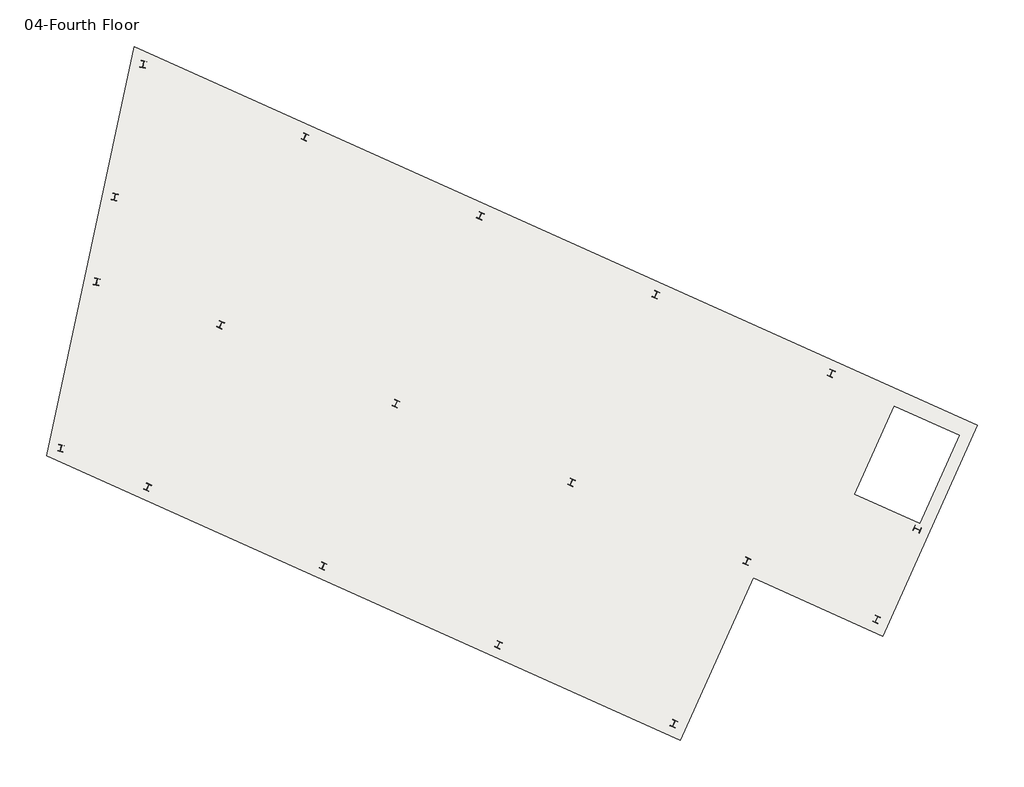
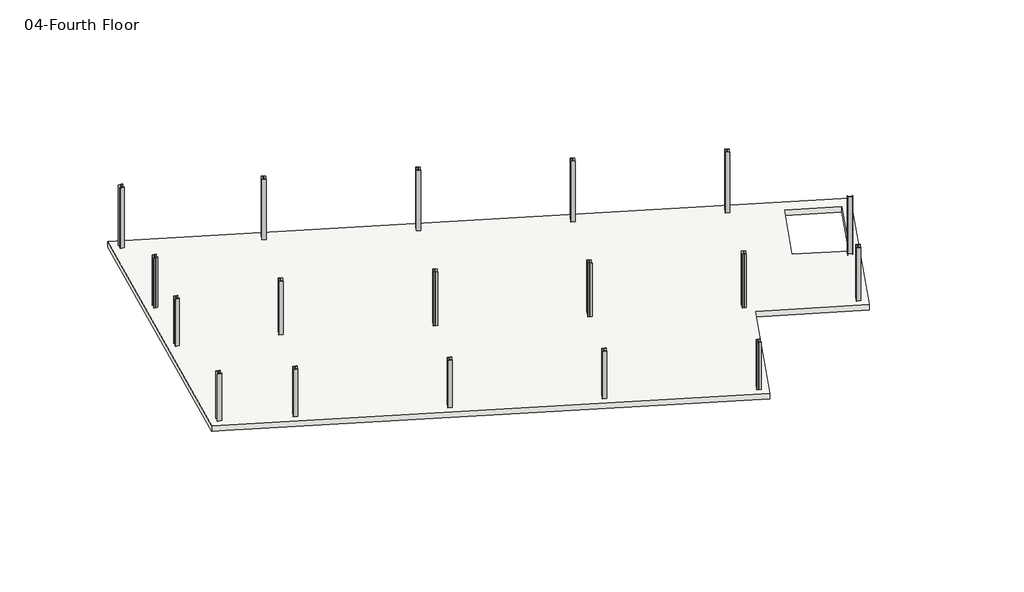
# One storey: 18 columns, 1 slab.
"""IFC4 building model written with IfcOpenShell, lengths in millimetres."""

from ifc_helpers import new_model, si_unit, origin, place, context, project, spatial, faceted_brep, transform, mapped, element, save
from components import w_shapes_column_w10x33_a9fcfa0c, w_shapes_column_w10x33_dd564183, w_shapes_column_w10x33_143f3a9e, w_shapes_column_w10x33_68d9858e, w_shapes_column_w10x33_19826069, w_shapes_column_w10x33_0502d7ff, w_shapes_column_w10x33_47bedb91, w_shapes_column_w10x33_6cbc947e

model = new_model("IFC4")

# Units and contexts
model_context = context("Model", 3, world=origin())
ifc_project = project(units=[si_unit("LENGTHUNIT", "METRE", prefix="MILLI")], contexts=[model_context])

# Site, building, storey
site = spatial("IfcSite", under=ifc_project)
building = spatial("IfcBuilding", under=site)
storey = spatial("IfcBuildingStorey", under=building, Name="04-Fourth Floor", Elevation=13411.2)

# Columns
placement = place(None, origin())
w_shapes_column_w10x33_shape = w_shapes_column_w10x33_a9fcfa0c(model_context)
element("IfcColumn", 1, ObjectType="W Shapes-Column : W10X33", at=placement, inside=storey, context=model_context, shape_type="MappedRepresentation", body=[
    mapped(w_shapes_column_w10x33_shape, transform((53006.5219449, -18113.1117073, 0.0), x_axis=(-0.9121951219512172, 0.4097560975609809, 0.0), y_axis=(-0.4097560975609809, -0.9121951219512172, 0.0), z_axis=(0.0, 0.0, 1.0))),
])
element("IfcColumn", 2, ObjectType="W Shapes-Column : W10X33", at=placement, inside=storey, context=model_context, shape_type="MappedRepresentation", body=[
    mapped(w_shapes_column_w10x33_shape, transform((57733.1521888, -20236.3039024, 0.0), x_axis=(-0.9121951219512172, 0.4097560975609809, 0.0), y_axis=(-0.4097560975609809, -0.9121951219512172, 0.0), z_axis=(0.0, 0.0, 1.0))),
])
element("IfcColumn", 3, ObjectType="W Shapes-Column : W10X33", at=placement, inside=storey, context=model_context, shape_type="MappedRepresentation", body=[
    mapped(w_shapes_column_w10x33_shape, transform((46611.669262, -15240.557561, 0.0), x_axis=(-0.9121951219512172, 0.4097560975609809, 0.0), y_axis=(-0.4097560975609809, -0.9121951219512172, 0.0), z_axis=(0.0, 0.0, 1.0))),
])
element("IfcColumn", 4, ObjectType="W Shapes-Column : W10X33", at=placement, inside=storey, context=model_context, shape_type="MappedRepresentation", body=[
    mapped(w_shapes_column_w10x33_shape, transform((40216.816579, -12368.0034146, 0.0), x_axis=(-0.9121951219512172, 0.4097560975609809, 0.0), y_axis=(-0.4097560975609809, -0.9121951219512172, 0.0), z_axis=(0.0, 0.0, 1.0))),
])
element("IfcColumn", 5, ObjectType="W Shapes-Column : W10X33", at=placement, inside=storey, context=model_context, shape_type="MappedRepresentation", body=[
    mapped(w_shapes_column_w10x33_shape, transform((33821.9638961, -9495.4492683, 0.0), x_axis=(-0.9121951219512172, 0.4097560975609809, 0.0), y_axis=(-0.4097560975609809, -0.9121951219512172, 0.0), z_axis=(0.0, 0.0, 1.0))),
])
w_shapes_column_w10x33_2_shape = w_shapes_column_w10x33_dd564183(model_context)
element("IfcColumn", 6, ObjectType="W Shapes-Column : W10X33", at=placement, inside=storey, context=model_context, shape_type="MappedRepresentation", body=[
    mapped(w_shapes_column_w10x33_2_shape, transform((36897.4702376, -2648.7863415, 0.0), x_axis=(-0.9121951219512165, 0.4097560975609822, 0.0), y_axis=(-0.4097560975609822, -0.9121951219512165, 0.0), z_axis=(0.0, 0.0, 1.0))),
])
element("IfcColumn", 7, ObjectType="W Shapes-Column : W10X33", at=placement, inside=storey, context=model_context, shape_type="MappedRepresentation", body=[
    mapped(w_shapes_column_w10x33_2_shape, transform((43292.3229205, -5521.3404878, 0.0), x_axis=(-0.9121951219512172, 0.40975609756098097, 0.0), y_axis=(-0.40975609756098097, -0.9121951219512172, 0.0), z_axis=(0.0, 0.0, 1.0))),
])
element("IfcColumn", 8, ObjectType="W Shapes-Column : W10X33", at=placement, inside=storey, context=model_context, shape_type="MappedRepresentation", body=[
    mapped(w_shapes_column_w10x33_2_shape, transform((49687.1756034, -8393.8946341, 0.0), x_axis=(-0.9121951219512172, 0.4097560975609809, 0.0), y_axis=(-0.4097560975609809, -0.9121951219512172, 0.0), z_axis=(0.0, 0.0, 1.0))),
])
element("IfcColumn", 9, ObjectType="W Shapes-Column : W10X33", at=placement, inside=storey, context=model_context, shape_type="MappedRepresentation", body=[
    mapped(w_shapes_column_w10x33_2_shape, transform((56082.0282864, -11266.4487805, 0.0), x_axis=(-0.9121951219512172, 0.4097560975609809, 0.0), y_axis=(-0.4097560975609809, -0.9121951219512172, 0.0), z_axis=(0.0, 0.0, 1.0))),
])
w_shapes_column_w10x33_3_shape = w_shapes_column_w10x33_143f3a9e(model_context)
element("IfcColumn", 10, ObjectType="W Shapes-Column : W10X33", at=placement, inside=storey, context=model_context, shape_type="MappedRepresentation", body=[
    mapped(w_shapes_column_w10x33_3_shape, transform((31162.7697498, -15415.3219512, 0.0), x_axis=(-0.9121951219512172, 0.409756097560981, 0.0), y_axis=(-0.409756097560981, -0.9121951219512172, 0.0), z_axis=(0.0, 0.0, 1.0))),
])
element("IfcColumn", 11, ObjectType="W Shapes-Column : W10X33", at=placement, inside=storey, context=model_context, shape_type="MappedRepresentation", body=[
    mapped(w_shapes_column_w10x33_3_shape, transform((37557.6224327, -18287.8760976, 0.0), x_axis=(-0.9121951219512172, 0.4097560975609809, 0.0), y_axis=(-0.4097560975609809, -0.9121951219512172, 0.0), z_axis=(0.0, 0.0, 1.0))),
])
element("IfcColumn", 12, ObjectType="W Shapes-Column : W10X33", at=placement, inside=storey, context=model_context, shape_type="MappedRepresentation", body=[
    mapped(w_shapes_column_w10x33_3_shape, transform((43952.4751156, -21160.4302439, 0.0), x_axis=(-0.9121951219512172, 0.4097560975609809, 0.0), y_axis=(-0.4097560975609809, -0.9121951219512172, 0.0), z_axis=(0.0, 0.0, 1.0))),
])
element("IfcColumn", 13, ObjectType="W Shapes-Column : W10X33", at=placement, inside=storey, context=model_context, shape_type="MappedRepresentation", body=[
    mapped(w_shapes_column_w10x33_3_shape, transform((50347.3277985, -24032.9843902, 0.0), x_axis=(-0.9121951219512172, 0.4097560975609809, 0.0), y_axis=(-0.4097560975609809, -0.9121951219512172, 0.0), z_axis=(0.0, 0.0, 1.0))),
])
w_shapes_column_w10x33_4_shape = w_shapes_column_w10x33_68d9858e(model_context)
element("IfcColumn", 14, ObjectType="W Shapes-Column : W10X33", at=placement, inside=storey, context=model_context, shape_type="MappedRepresentation", body=[
    mapped(w_shapes_column_w10x33_4_shape, transform((28001.753025, -13995.4, 0.0), x_axis=(0.9778024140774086, -0.2095290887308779, 0.0), y_axis=(0.2095290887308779, 0.9778024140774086, 0.0), z_axis=(0.0, 0.0, 1.0))),
])
w_shapes_column_w10x33_5_shape = w_shapes_column_w10x33_19826069(model_context)
element("IfcColumn", 15, ObjectType="W Shapes-Column : W10X33", at=placement, inside=storey, context=model_context, shape_type="MappedRepresentation", body=[
    mapped(w_shapes_column_w10x33_5_shape, transform((31000.7673107, 0.0, 0.0), x_axis=(0.9778024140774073, -0.20952908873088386, 0.0), y_axis=(0.20952908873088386, 0.9778024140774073, 0.0), z_axis=(0.0, 0.0, 1.0))),
])
w_shapes_column_w10x33_6_shape = w_shapes_column_w10x33_0502d7ff(model_context)
element("IfcColumn", 16, ObjectType="W Shapes-Column : W10X33", at=placement, inside=storey, context=model_context, shape_type="MappedRepresentation", body=[
    mapped(w_shapes_column_w10x33_6_shape, transform((59211.6282063, -16944.934673, 0.0), x_axis=(-0.4097560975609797, -0.9121951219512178, 0.0), y_axis=(0.9121951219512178, -0.4097560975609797, 0.0), z_axis=(0.0, 0.0, 1.0))),
])
w_shapes_column_w10x33_7_shape = w_shapes_column_w10x33_47bedb91(model_context)
element("IfcColumn", 17, ObjectType="W Shapes-Column : W10X33", at=placement, inside=storey, context=model_context, shape_type="MappedRepresentation", body=[
    mapped(w_shapes_column_w10x33_7_shape, transform((29301.9671438, -7927.7341122, 0.0), x_axis=(0.9778024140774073, -0.20952908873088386, 0.0), y_axis=(0.20952908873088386, 0.9778024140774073, 0.0), z_axis=(0.0, 0.0, 1.0))),
])
w_shapes_column_w10x33_8_shape = w_shapes_column_w10x33_6cbc947e(model_context)
element("IfcColumn", 18, ObjectType="W Shapes-Column : W10X33", at=placement, inside=storey, context=model_context, shape_type="MappedRepresentation", body=[
    mapped(w_shapes_column_w10x33_8_shape, transform((29964.887162, -4834.1073607, 0.0), x_axis=(0.9778024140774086, -0.20952908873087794, 0.0), y_axis=(0.20952908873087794, 0.9778024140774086, 0.0), z_axis=(0.0, 0.0, 1.0))),
])

# Slab
element("IfcSlab", 19, ObjectType="RC Slab 12\"", at=placement, inside=storey, context=model_context, shape_type="Brep", body=[
    faceted_brep([(61413.0546278, -13159.9258537, 13106.4), (57962.8673107, -20840.7, 13106.4), (53236.2370668, -18717.5078049, 13106.4), (50577.0429205, -24637.3804878, 13106.4), (29168.1882864, -15020.5687805, 13106.4), (28045.956063, -14516.4644662, 13106.4), (27761.6071299, -14388.7355338, 13106.4), (27477.2581969, -14261.0066013, 13106.4), (30672.2153397, 648.7933987, 13106.4), (30956.5642728, 521.0644662, 13106.4), (31240.9132058, 393.3355338, 13106.4), (32422.724802, -137.5317073, 13106.4), (59309.9346278, -16726.0858537, 13106.4), (60746.211701, -13528.6595122, 13106.4), (58382.896579, -12467.0634146, 13106.4), (56946.6195059, -15664.4897561, 13106.4), (57962.8673107, -20840.7, 13411.2), (61413.0546278, -13159.9258537, 13411.2), (30672.2153397, 648.7933987, 13411.2), (27477.2581969, -14261.0066013, 13411.2), (50577.0429205, -24637.3804878, 13411.2), (53236.2370668, -18717.5078049, 13411.2), (60746.211701, -13528.6595122, 13411.2), (59309.9346278, -16726.0858537, 13411.2), (56946.6195059, -15664.4897561, 13411.2), (58382.896579, -12467.0634146, 13411.2)], [[[0, 1, 2, 3, 4, 5, 6, 7, 8, 9, 10, 11], [12, 13, 14, 15]], [[16, 17, 18, 19, 20, 21], [22, 23, 24, 25]], [[1, 0, 17, 16]], [[2, 1, 16, 21]], [[3, 2, 21, 20]], [[7, 6, 5, 4, 3, 20, 19]], [[8, 7, 19, 18]], [[0, 11, 10, 9, 8, 18, 17]], [[12, 23, 22, 13]], [[13, 22, 25, 14]], [[14, 25, 24, 15]], [[23, 12, 15, 24]]]),
])

save(model, "model.ifc")
